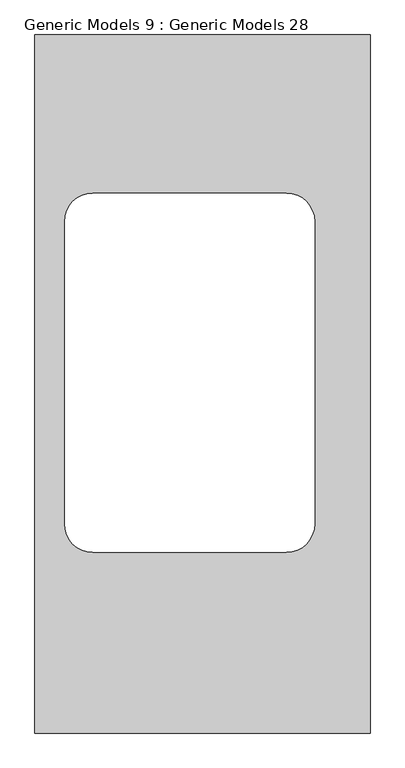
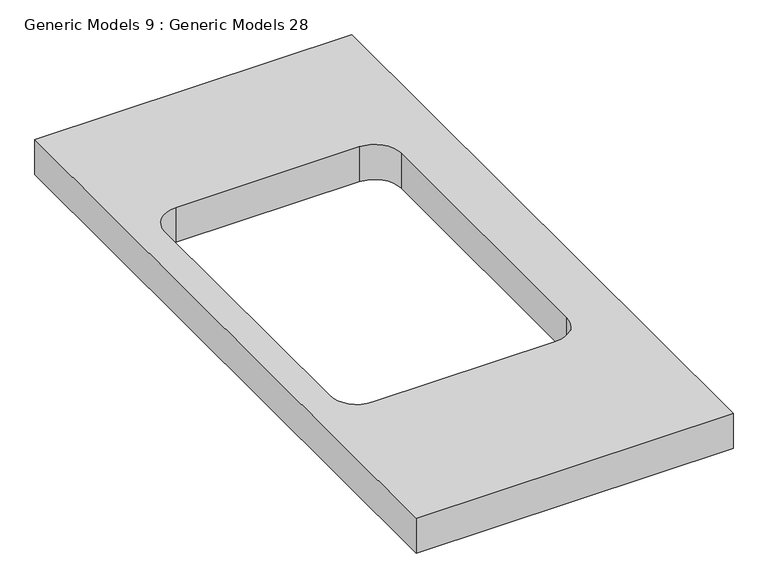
"""IFC4 building model written with IfcOpenShell, lengths in millimetres: proxy geometry, Generic Models 9 : Generic Models 28."""

from ifc_helpers import new_model, si_unit, point, frame, frame_2d, origin, place, context, project, spatial, polyline, circle_curve, trimmed, segment, composite_curve, outline, extrude, source, transform, mapped, element, save


def generic_models_9_generic_models_28_66f82105(model_context):
    return source(origin(), model_context, "Body", "SweptSolid", [
        extrude(outline(polyline([(-16227.2739616, 2375.3301908), (-16227.2739616, 1125.3301908), (-16827.2739616, 1125.3301908), (-16827.2739616, 2375.3301908), (-16227.2739616, 2375.3301908)]), holes=[composite_curve([segment(trimmed(circle_curve(frame_2d((-16723.2925843, 2041.239176)), 50.8), [point((-16723.2925843, 2092.039176))], [point((-16774.0925843, 2041.239176))], True, "CARTESIAN"), True, "CONTINUOUS"), segment(polyline([(-16774.0925843, 2041.239176), (-16774.0925843, 1499.739176)]), True, "CONTINUOUS"), segment(trimmed(circle_curve(frame_2d((-16723.2925843, 1499.739176)), 50.8), [point((-16774.0925843, 1499.739176))], [point((-16723.2925843, 1448.939176))], True, "CARTESIAN"), True, "CONTINUOUS"), segment(polyline([(-16723.2925843, 1448.939176), (-16377.2925843, 1448.939176)]), True, "CONTINUOUS"), segment(trimmed(circle_curve(frame_2d((-16377.2925843, 1499.739176)), 50.8), [point((-16377.2925843, 1448.939176))], [point((-16326.4925843, 1499.739176))], True, "CARTESIAN"), True, "CONTINUOUS"), segment(polyline([(-16326.4925843, 1499.739176), (-16326.4925843, 2041.239176)]), True, "CONTINUOUS"), segment(trimmed(circle_curve(frame_2d((-16377.2925843, 2041.239176)), 50.8), [point((-16326.4925843, 2041.239176))], [point((-16377.2925843, 2092.039176))], True, "CARTESIAN"), True, "CONTINUOUS"), segment(polyline([(-16377.2925843, 2092.039176), (-16723.2925843, 2092.039176)]), True, "CONTINUOUS")], self_intersect=False)]), frame((0.0, 0.0, 830.0), z_axis=(0.0, 0.0, 1.0), x_axis=(1.0, 0.0, 0.0)), (0.0, 0.0, 1.0), 70.0),
    ])


if __name__ == "__main__":
    model = new_model("IFC4")
    model_context = context("Model", 3, world=origin())
    ifc_project = project(units=[si_unit("LENGTHUNIT", "METRE", prefix="MILLI")], contexts=[model_context])
    site = spatial("IfcSite", under=ifc_project)
    building = spatial("IfcBuilding", under=site)
    placement = place(None, origin())
    generic_models_9_generic_models_28_shape = generic_models_9_generic_models_28_66f82105(model_context)
    element("IfcBuildingElementProxy", 1, Name="Generic Models 9 : Generic Models 28", ObjectType="Generic Models 9 : Generic Models 28", at=placement, inside=building, context=model_context, shape_type="MappedRepresentation", body=[
        mapped(generic_models_9_generic_models_28_shape, transform((0.0, 0.0, 0.0), x_axis=(1.0, 0.0, 0.0), y_axis=(0.0, 1.0, 0.0), z_axis=(0.0, 0.0, 1.0))),
    ])
    save(model, "model.ifc")
